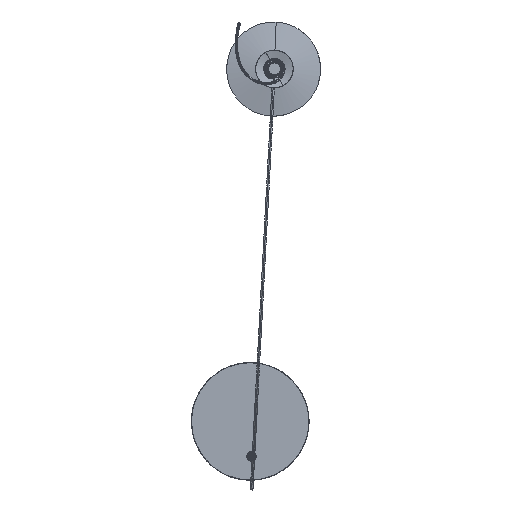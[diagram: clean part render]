
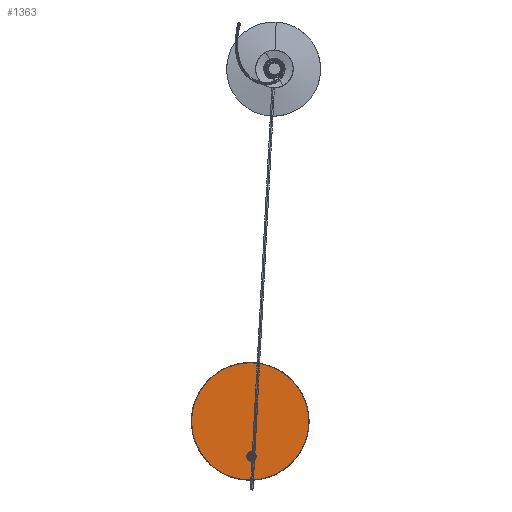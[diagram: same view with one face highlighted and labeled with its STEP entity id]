
A CAD part, top view. The second image highlights one B-rep face of the part: STEP entity #1363.
In plain terms, the highlighted planar face has unit normal (0, 0, 1).
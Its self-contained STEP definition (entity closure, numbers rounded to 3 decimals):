
#1363=ADVANCED_FACE('',(#2338,#1474),#14040,.T.);
#1474=FACE_BOUND('',#3311,.T.);
#2338=FACE_OUTER_BOUND('',#3310,.T.);
#3310=EDGE_LOOP('',(#7613,#7614));
#3311=EDGE_LOOP('',(#7615,#7616));
#7613=ORIENTED_EDGE('',*,*,#9814,.T.);
#7614=ORIENTED_EDGE('',*,*,#9815,.T.);
#7615=ORIENTED_EDGE('',*,*,#9816,.F.);
#7616=ORIENTED_EDGE('',*,*,#9817,.F.);
#9814=EDGE_CURVE('',#13355,#13356,#10658,.T.);
#9815=EDGE_CURVE('',#13356,#13355,#10659,.T.);
#9816=EDGE_CURVE('',#13357,#13358,#10660,.T.);
#9817=EDGE_CURVE('',#13358,#13357,#10661,.T.);
#10658=(
BOUNDED_CURVE()
B_SPLINE_CURVE(2,(#47249,#47250,#47251,#47252,#47253),.UNSPECIFIED.,.F.,
 .F.)
B_SPLINE_CURVE_WITH_KNOTS((3,2,3),(0.,391.128,782.257),
 .UNSPECIFIED.)
CURVE()
GEOMETRIC_REPRESENTATION_ITEM()
RATIONAL_B_SPLINE_CURVE((1.,0.707,1.,0.707,1.))
REPRESENTATION_ITEM('')
);
#10659=(
BOUNDED_CURVE()
B_SPLINE_CURVE(2,(#47254,#47255,#47256,#47257,#47258),.UNSPECIFIED.,.F.,
 .F.)
B_SPLINE_CURVE_WITH_KNOTS((3,2,3),(0.,391.128,782.257),
 .UNSPECIFIED.)
CURVE()
GEOMETRIC_REPRESENTATION_ITEM()
RATIONAL_B_SPLINE_CURVE((1.,0.707,1.,0.707,1.))
REPRESENTATION_ITEM('')
);
#10660=(
BOUNDED_CURVE()
B_SPLINE_CURVE(2,(#47259,#47260,#47261,#47262,#47263),.UNSPECIFIED.,.F.,
 .F.)
B_SPLINE_CURVE_WITH_KNOTS((3,2,3),(0.,15.708,31.416),
 .UNSPECIFIED.)
CURVE()
GEOMETRIC_REPRESENTATION_ITEM()
RATIONAL_B_SPLINE_CURVE((1.,0.707,1.,0.707,1.))
REPRESENTATION_ITEM('')
);
#10661=(
BOUNDED_CURVE()
B_SPLINE_CURVE(2,(#47264,#47265,#47266,#47267,#47268),.UNSPECIFIED.,.F.,
 .F.)
B_SPLINE_CURVE_WITH_KNOTS((3,2,3),(0.,15.708,31.416),
 .UNSPECIFIED.)
CURVE()
GEOMETRIC_REPRESENTATION_ITEM()
RATIONAL_B_SPLINE_CURVE((1.,0.707,1.,0.707,1.))
REPRESENTATION_ITEM('')
);
#13355=VERTEX_POINT('',#47221);
#13356=VERTEX_POINT('',#47222);
#13357=VERTEX_POINT('',#47223);
#13358=VERTEX_POINT('',#47224);
#14040=PLANE('',#14211);
#14211=AXIS2_PLACEMENT_3D('',#47104,#14366,$);
#14366=DIRECTION('',(0.,0.,1.));
#47104=CARTESIAN_POINT('',(-262.25,399.,8.));
#47221=CARTESIAN_POINT('',(-13.25,-99.,8.));
#47222=CARTESIAN_POINT('',(-13.25,399.,8.));
#47223=CARTESIAN_POINT('',(-13.25,10.,8.));
#47224=CARTESIAN_POINT('',(-13.25,-10.,8.));
#47249=CARTESIAN_POINT('',(-13.25,-99.,8.));
#47250=CARTESIAN_POINT('',(235.75,-99.,8.));
#47251=CARTESIAN_POINT('',(235.75,150.,8.));
#47252=CARTESIAN_POINT('',(235.75,399.,8.));
#47253=CARTESIAN_POINT('',(-13.25,399.,8.));
#47254=CARTESIAN_POINT('',(-13.25,399.,8.));
#47255=CARTESIAN_POINT('',(-262.25,399.,8.));
#47256=CARTESIAN_POINT('',(-262.25,150.,8.));
#47257=CARTESIAN_POINT('',(-262.25,-99.,8.));
#47258=CARTESIAN_POINT('',(-13.25,-99.,8.));
#47259=CARTESIAN_POINT('',(-13.25,10.,8.));
#47260=CARTESIAN_POINT('',(-23.25,10.,8.));
#47261=CARTESIAN_POINT('',(-23.25,0.,8.));
#47262=CARTESIAN_POINT('',(-23.25,-10.,8.));
#47263=CARTESIAN_POINT('',(-13.25,-10.,8.));
#47264=CARTESIAN_POINT('',(-13.25,-10.,8.));
#47265=CARTESIAN_POINT('',(-3.25,-10.,8.));
#47266=CARTESIAN_POINT('',(-3.25,0.,8.));
#47267=CARTESIAN_POINT('',(-3.25,10.,8.));
#47268=CARTESIAN_POINT('',(-13.25,10.,8.));
